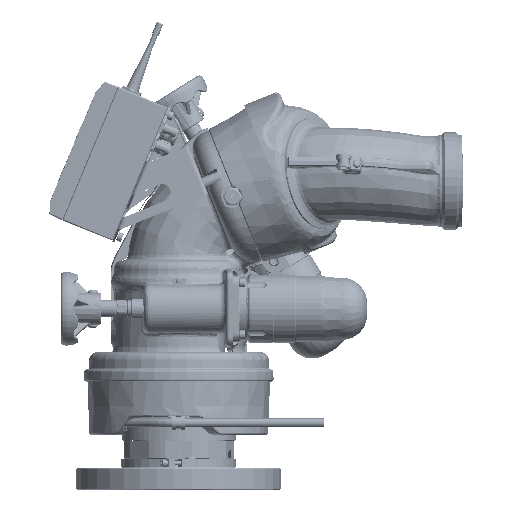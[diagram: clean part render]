
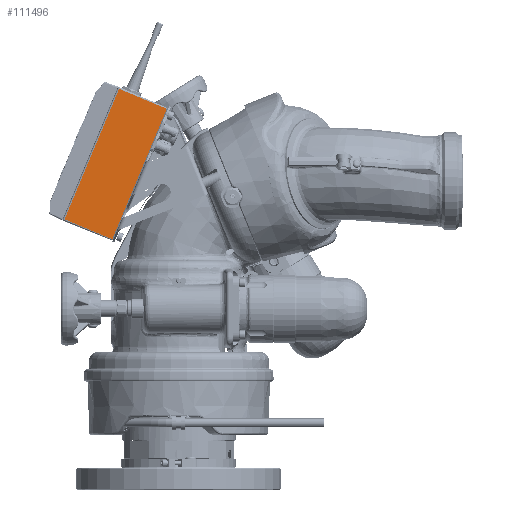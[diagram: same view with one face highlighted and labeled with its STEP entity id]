
A CAD part, top view. The second image highlights one B-rep face of the part: STEP entity #111496.
In plain terms, the highlighted planar face has unit normal (0.013, -0.005, 1).
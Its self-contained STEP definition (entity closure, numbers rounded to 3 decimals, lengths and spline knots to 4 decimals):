
#825 = AXIS2_PLACEMENT_3D ( 'NONE', #181455, #150196, #88442 ) ;
#910 = CARTESIAN_POINT ( 'NONE',  ( -4.0203, 6.9407, 2.5155 ) ) ;
#2737 = CARTESIAN_POINT ( 'NONE',  ( -6.3887, 1.2759, 2.5155 ) ) ;
#21306 = EDGE_LOOP ( 'NONE', ( #54854, #87994, #55394, #151777 ) ) ;
#24280 = VECTOR ( 'NONE', #88029, 39.3701 ) ;
#29612 = CARTESIAN_POINT ( 'NONE',  ( -6.0923, 7.807, 2.5469 ) ) ;
#48584 = VERTEX_POINT ( 'NONE', #29612 ) ;
#52828 = LINE ( 'NONE', #76873, #188815 ) ;
#54854 = ORIENTED_EDGE ( 'NONE', *, *, #142670, .F. ) ;
#55394 = ORIENTED_EDGE ( 'NONE', *, *, #190065, .T. ) ;
#69211 = VERTEX_POINT ( 'NONE', #910 ) ;
#71552 = DIRECTION ( 'NONE',  ( -0.923, 0.386, 0.014 ) ) ;
#76873 = CARTESIAN_POINT ( 'NONE',  ( -6.1578, 7.8343, 2.5479 ) ) ;
#87713 = EDGE_CURVE ( 'NONE', #186385, #69211, #160209, .T. ) ;
#87994 = ORIENTED_EDGE ( 'NONE', *, *, #87713, .T. ) ;
#88029 = DIRECTION ( 'NONE',  ( 0.386, 0.923, 0. ) ) ;
#88442 = DIRECTION ( 'NONE',  ( -0.923, 0.386, 0.014 ) ) ;
#93689 = CARTESIAN_POINT ( 'NONE',  ( -8.4607, 2.1421, 2.5469 ) ) ;
#99992 = LINE ( 'NONE', #164522, #187456 ) ;
#111496 = ADVANCED_FACE ( 'NONE', ( #149124 ), #165114, .T. ) ;
#117240 = CARTESIAN_POINT ( 'NONE',  ( -4.0203, 6.9407, 2.5155 ) ) ;
#122377 = EDGE_CURVE ( 'NONE', #48584, #139652, #200018, .T. ) ;
#139652 = VERTEX_POINT ( 'NONE', #93689 ) ;
#140665 = DIRECTION ( 'NONE',  ( -0.923, 0.386, 0.014 ) ) ;
#142670 = EDGE_CURVE ( 'NONE', #186385, #139652, #99992, .T. ) ;
#149124 = FACE_OUTER_BOUND ( 'NONE', #21306, .T. ) ;
#150196 = DIRECTION ( 'NONE',  ( 0.013, -0.005, 1. ) ) ;
#151777 = ORIENTED_EDGE ( 'NONE', *, *, #122377, .T. ) ;
#160209 = LINE ( 'NONE', #117240, #24280 ) ;
#164522 = CARTESIAN_POINT ( 'NONE',  ( -8.5262, 2.1695, 2.5479 ) ) ;
#165114 = PLANE ( 'NONE',  #825 ) ;
#176558 = CARTESIAN_POINT ( 'NONE',  ( -8.4607, 2.1421, 2.5469 ) ) ;
#181455 = CARTESIAN_POINT ( 'NONE',  ( -8.5262, 2.1695, 2.5479 ) ) ;
#186385 = VERTEX_POINT ( 'NONE', #2737 ) ;
#187456 = VECTOR ( 'NONE', #71552, 39.3701 ) ;
#187712 = VECTOR ( 'NONE', #192173, 39.3701 ) ;
#188815 = VECTOR ( 'NONE', #140665, 39.3701 ) ;
#190065 = EDGE_CURVE ( 'NONE', #69211, #48584, #52828, .T. ) ;
#192173 = DIRECTION ( 'NONE',  ( -0.386, -0.923, 0. ) ) ;
#200018 = LINE ( 'NONE', #176558, #187712 ) ;
